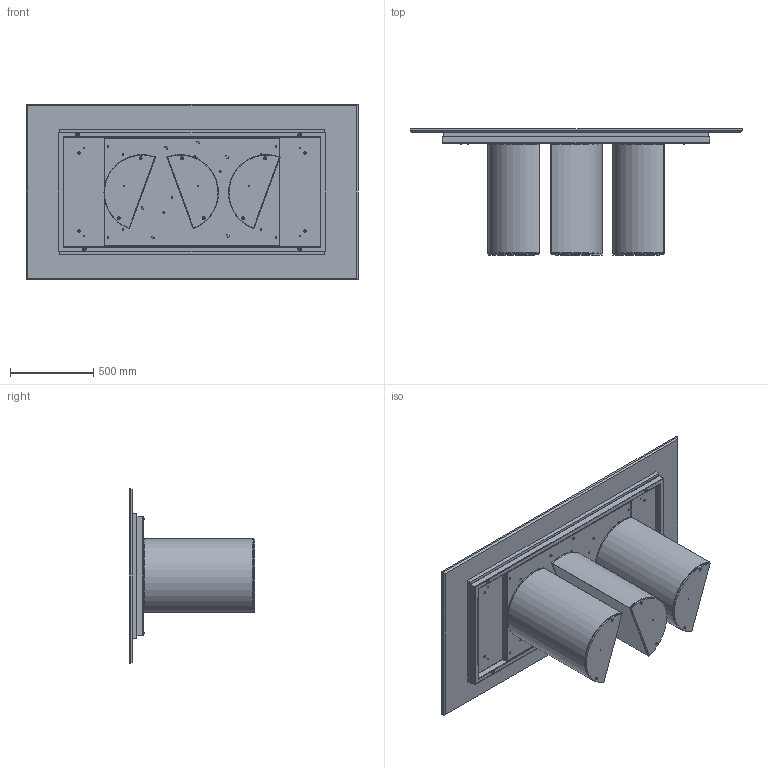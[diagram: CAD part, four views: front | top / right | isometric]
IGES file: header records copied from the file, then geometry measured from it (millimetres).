
Start section: SolidWorks IGES file using analytic representation for surfaces
Global section: file name: Y:\eforma\TECNICO\SOLIDWORKS\E-FORMA\1-TAVOLI\PLAI\02 parts\PL21M.IGS; native system: SolidWorks 2022; preprocessor: SolidWorks 2022; author: eforma.tech; date: 240807.155126; units: millimetre
Bounding box: 2000 x 759 x 1060 mm (x, y, z)
Volume: 84822690.7 mm3; surface area: 15491961.1 mm2
Topology: 45 solids, 45 shells, 1334 faces, 3032 edges, 1747 vertices
Faces by surface type: revolution 813, plane 521
